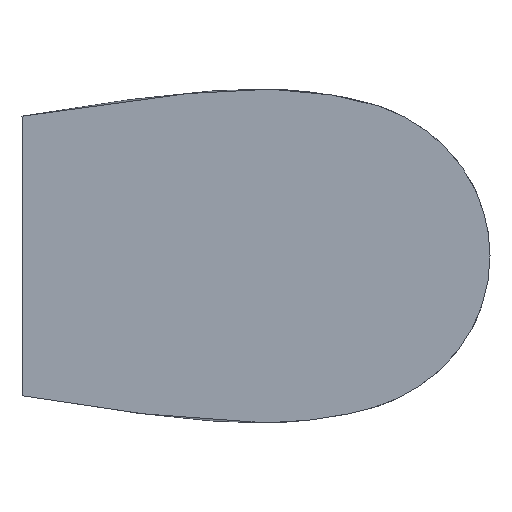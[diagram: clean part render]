
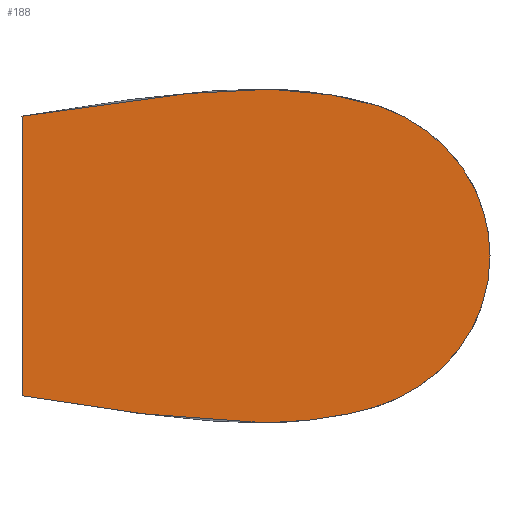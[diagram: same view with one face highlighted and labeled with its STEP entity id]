
A CAD part, left-side view. The second image highlights one B-rep face of the part: STEP entity #188.
In plain terms, the highlighted planar face has unit normal (-1, 0, 0).
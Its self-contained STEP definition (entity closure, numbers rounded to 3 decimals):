
#6=DIRECTION('',(0.,0.,1.));
#7=VECTOR('',#6,2.511);
#8=CARTESIAN_POINT('',(-9.,-0.3,-1.255));
#9=LINE('',#8,#7);
#10=CARTESIAN_POINT('',(-9.,-0.3,1.255));
#11=CARTESIAN_POINT('',(-9.,-0.462,1.287));
#12=CARTESIAN_POINT('',(-9.,-0.787,1.344));
#13=CARTESIAN_POINT('',(-9.,-1.155,1.392));
#14=CARTESIAN_POINT('',(-9.,-1.4,1.418));
#15=CARTESIAN_POINT('',(-9.,-1.525,1.43));
#16=CARTESIAN_POINT('',(-9.,-1.65,1.442));
#17=CARTESIAN_POINT('',(-9.,-1.776,1.457));
#18=CARTESIAN_POINT('',(-9.,-1.904,1.472));
#19=CARTESIAN_POINT('',(-9.,-2.079,1.489));
#20=CARTESIAN_POINT('',(-9.,-2.328,1.502));
#21=CARTESIAN_POINT('',(-9.,-2.657,1.497));
#22=CARTESIAN_POINT('',(-9.,-2.958,1.468));
#23=CARTESIAN_POINT('',(-9.,-3.201,1.425));
#24=CARTESIAN_POINT('',(-9.,-3.385,1.385));
#25=CARTESIAN_POINT('',(-9.,-3.567,1.327));
#26=CARTESIAN_POINT('',(-9.,-3.799,1.222));
#27=CARTESIAN_POINT('',(-9.,-4.064,1.036));
#28=CARTESIAN_POINT('',(-9.,-4.271,0.786));
#29=CARTESIAN_POINT('',(-9.,-4.39,0.558));
#30=CARTESIAN_POINT('',(-9.,-4.454,0.377));
#31=CARTESIAN_POINT('',(-9.,-4.493,0.19));
#32=CARTESIAN_POINT('',(-9.,-4.502,0.063));
#33=CARTESIAN_POINT('',(-9.,-4.502,0.));
#35=CARTESIAN_POINT('',(-9.,-4.502,0.));
#36=CARTESIAN_POINT('',(-9.,-4.502,-0.063));
#37=CARTESIAN_POINT('',(-9.,-4.493,-0.19));
#38=CARTESIAN_POINT('',(-9.,-4.454,-0.377));
#39=CARTESIAN_POINT('',(-9.,-4.39,-0.558));
#40=CARTESIAN_POINT('',(-9.,-4.271,-0.786));
#41=CARTESIAN_POINT('',(-9.,-4.064,-1.036));
#42=CARTESIAN_POINT('',(-9.,-3.799,-1.222));
#43=CARTESIAN_POINT('',(-9.,-3.567,-1.327));
#44=CARTESIAN_POINT('',(-9.,-3.385,-1.385));
#45=CARTESIAN_POINT('',(-9.,-3.201,-1.425));
#46=CARTESIAN_POINT('',(-9.,-2.958,-1.468));
#47=CARTESIAN_POINT('',(-9.,-2.657,-1.497));
#48=CARTESIAN_POINT('',(-9.,-2.328,-1.502));
#49=CARTESIAN_POINT('',(-9.,-2.079,-1.489));
#50=CARTESIAN_POINT('',(-9.,-1.904,-1.472));
#51=CARTESIAN_POINT('',(-9.,-1.776,-1.457));
#52=CARTESIAN_POINT('',(-9.,-1.65,-1.442));
#53=CARTESIAN_POINT('',(-9.,-1.525,-1.43));
#54=CARTESIAN_POINT('',(-9.,-1.4,-1.418));
#55=CARTESIAN_POINT('',(-9.,-1.155,-1.392));
#56=CARTESIAN_POINT('',(-9.,-0.787,-1.344));
#57=CARTESIAN_POINT('',(-9.,-0.462,-1.287));
#58=CARTESIAN_POINT('',(-9.,-0.3,-1.255));
#153=CARTESIAN_POINT('',(-9.,-0.3,-1.255));
#154=CARTESIAN_POINT('',(-9.,-0.3,1.255));
#155=VERTEX_POINT('',#153);
#156=VERTEX_POINT('',#154);
#157=VERTEX_POINT('',#35);
#176=CARTESIAN_POINT('',(-9.,0.,0.));
#177=DIRECTION('',(1.,0.,0.));
#178=DIRECTION('',(0.,0.,-1.));
#179=AXIS2_PLACEMENT_3D('',#176,#177,#178);
#180=PLANE('',#179);
#181=ORIENTED_EDGE('',*,*,#163,.T.);
#183=ORIENTED_EDGE('',*,*,#182,.T.);
#185=ORIENTED_EDGE('',*,*,#184,.T.);
#186=EDGE_LOOP('',(#181,#183,#185));
#187=FACE_OUTER_BOUND('',#186,.F.);
#188=ADVANCED_FACE('',(#187),#180,.F.);
#34=B_SPLINE_CURVE_WITH_KNOTS('',3,(#10,#11,#12,#13,#14,#15,#16,#17,#18,#19,#20,
#21,#22,#23,#24,#25,#26,#27,#28,#29,#30,#31,#32,#33),.UNSPECIFIED.,.F.,.F.,(4,1,
1,1,1,1,1,1,1,1,1,1,1,1,1,1,1,1,1,1,1,4),(0.,0.099,
0.197,0.221,0.246,0.271,
0.297,0.322,0.348,0.401,
0.472,0.544,0.582,0.619,
0.657,0.695,0.771,0.848,
0.886,0.924,0.962,1.),.UNSPECIFIED.);
#59=B_SPLINE_CURVE_WITH_KNOTS('',3,(#35,#36,#37,#38,#39,#40,#41,#42,#43,#44,#45,
#46,#47,#48,#49,#50,#51,#52,#53,#54,#55,#56,#57,#58),.UNSPECIFIED.,.F.,.F.,(4,1,
1,1,1,1,1,1,1,1,1,1,1,1,1,1,1,1,1,1,1,4),(0.,0.038,
0.076,0.114,0.152,0.229,
0.305,0.343,0.381,0.418,
0.456,0.528,0.599,0.652,
0.678,0.703,0.729,0.754,
0.779,0.803,0.901,1.),.UNSPECIFIED.);
#163=EDGE_CURVE('',#155,#156,#9,.T.);
#182=EDGE_CURVE('',#156,#157,#34,.T.);
#184=EDGE_CURVE('',#157,#155,#59,.T.);
